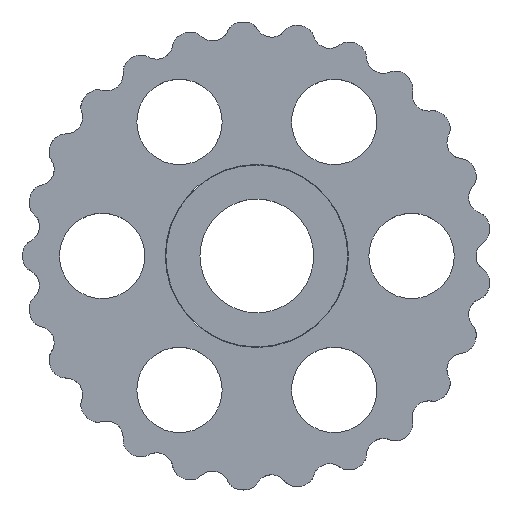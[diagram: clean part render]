
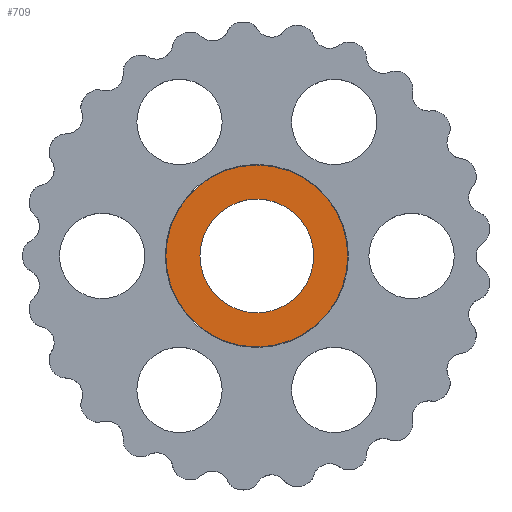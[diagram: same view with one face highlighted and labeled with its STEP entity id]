
A CAD part, top view. The second image highlights one B-rep face of the part: STEP entity #709.
In plain terms, the highlighted planar face has unit normal (0, 0, 1).
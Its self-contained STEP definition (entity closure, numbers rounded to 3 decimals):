
#31=FACE_BOUND('',#201,.T.);
#35=PLANE('',#755);
#148=FACE_OUTER_BOUND('',#200,.T.);
#200=EDGE_LOOP('',(#660));
#201=EDGE_LOOP('',(#661));
#286=CIRCLE('',#750,7.495);
#288=CIRCLE('',#753,11.995);
#354=VERTEX_POINT('',#13676);
#356=VERTEX_POINT('',#13682);
#454=EDGE_CURVE('',#354,#354,#286,.T.);
#457=EDGE_CURVE('',#356,#356,#288,.T.);
#660=ORIENTED_EDGE('',*,*,#457,.T.);
#661=ORIENTED_EDGE('',*,*,#454,.T.);
#709=ADVANCED_FACE('',(#148,#31),#35,.T.);
#750=AXIS2_PLACEMENT_3D('',#13677,#839,#840);
#753=AXIS2_PLACEMENT_3D('',#13683,#846,#847);
#755=AXIS2_PLACEMENT_3D('',#13687,#851,#852);
#839=DIRECTION('center_axis',(0.,0.,-1.));
#840=DIRECTION('ref_axis',(1.,0.,0.));
#846=DIRECTION('center_axis',(0.,0.,1.));
#847=DIRECTION('ref_axis',(1.,0.,0.));
#851=DIRECTION('center_axis',(0.,0.,1.));
#852=DIRECTION('ref_axis',(1.,0.,0.));
#13676=CARTESIAN_POINT('',(-7.495,0.,5.485));
#13677=CARTESIAN_POINT('Origin',(0.,0.,5.485));
#13682=CARTESIAN_POINT('',(-11.995,0.,5.485));
#13683=CARTESIAN_POINT('Origin',(0.,0.,5.485));
#13687=CARTESIAN_POINT('Origin',(0.,0.,5.485));
